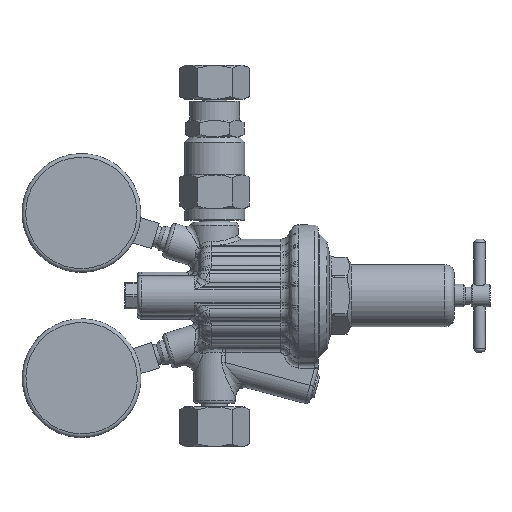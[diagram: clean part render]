
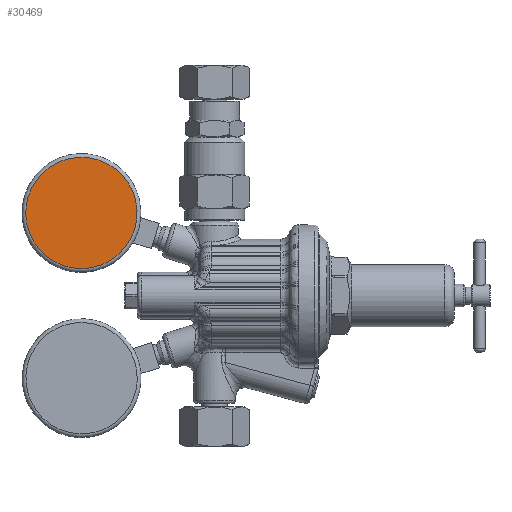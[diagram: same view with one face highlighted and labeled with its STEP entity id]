
A CAD part, front view. The second image highlights one B-rep face of the part: STEP entity #30469.
In plain terms, the highlighted planar face has unit normal (0, -1, 0).
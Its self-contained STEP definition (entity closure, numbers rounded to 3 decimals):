
#2463=PLANE('',#31971);
#3692=FACE_OUTER_BOUND('',#5463,.T.);
#5463=EDGE_LOOP('',(#22852));
#11723=CIRCLE('',#31969,29.5);
#13424=VERTEX_POINT('',#45978);
#16799=EDGE_CURVE('',#13424,#13424,#11723,.T.);
#22852=ORIENTED_EDGE('',*,*,#16799,.F.);
#30469=ADVANCED_FACE('',(#3692),#2463,.T.);
#31969=AXIS2_PLACEMENT_3D('',#45980,#35319,#35320);
#31971=AXIS2_PLACEMENT_3D('',#45982,#35323,#35324);
#35319=DIRECTION('center_axis',(0.,1.,0.));
#35320=DIRECTION('ref_axis',(0.297,0.,0.955));
#35323=DIRECTION('center_axis',(0.,-1.,0.));
#35324=DIRECTION('ref_axis',(0.297,0.,0.955));
#45978=CARTESIAN_POINT('',(-116.824,-9.5,71.956));
#45980=CARTESIAN_POINT('Origin',(-125.597,-9.5,43.791));
#45982=CARTESIAN_POINT('Origin',(-125.597,-9.5,43.791));
